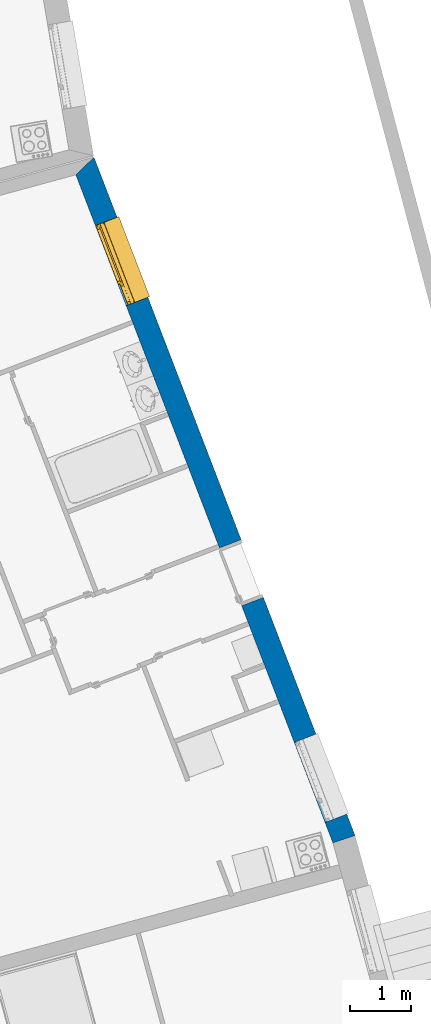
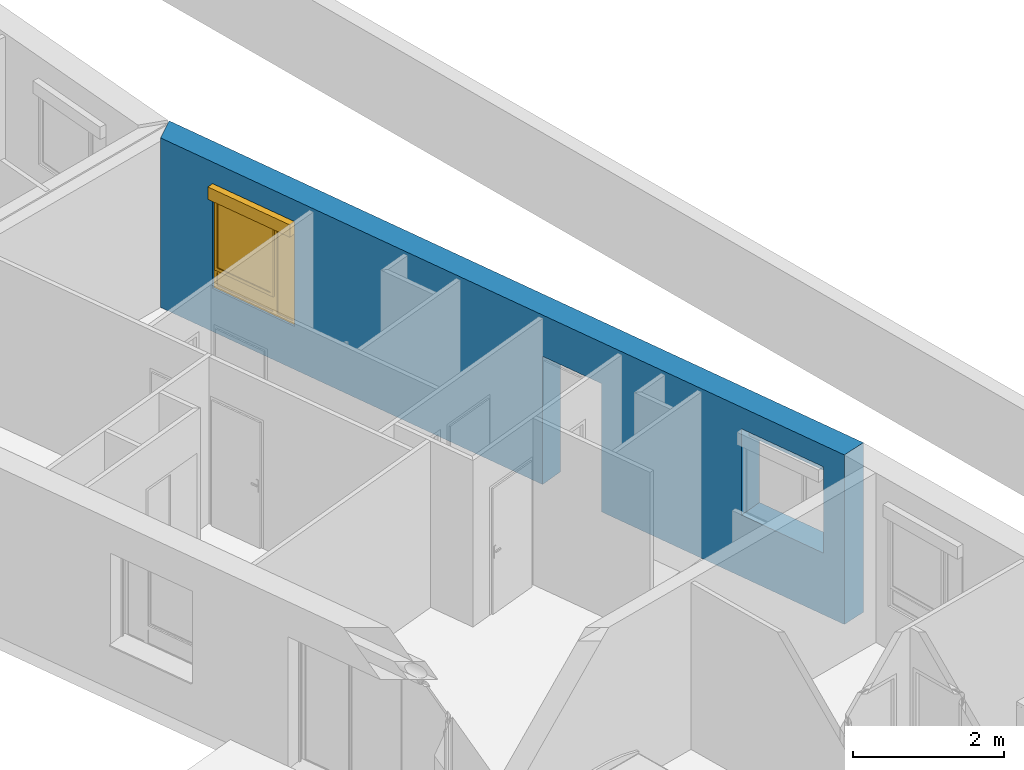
# One storey, part 77 of 195: 1 wall, 1 window, 3 openings.
"""IFC2X3 building model written with IfcOpenShell, lengths in metres."""

from ifc_helpers import new_model, entity, si_unit, converted_unit, derived_unit, money_unit, direction, frame, origin_with_axes, origin_2d_with_axis, place, context, subcontext, project, spatial, polyline, rectangle, outline, extrude, open_shell, faceted_brep, surface_model, source, transform, mapped, material, layer, layer_set, layer_usage, type_object, element, fill, save


model = new_model("IFC2X3")

# Units and contexts
model_context = context("Model", 3, precision=1e-05, world=origin_with_axes(), true_north=direction((0.0, 1.0)))
body_context = subcontext(model_context, "Body", "Model", "MODEL_VIEW")
ifc_project = project(units=[si_unit("LENGTHUNIT", "METRE"), si_unit("AREAUNIT", "SQUARE_METRE"), si_unit("VOLUMEUNIT", "CUBIC_METRE"), converted_unit("PLANEANGLEUNIT", "DEGREE", entity("IfcPlaneAngleMeasure", 0.0174532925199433), si_unit("PLANEANGLEUNIT", "RADIAN"), dimensions=[0, 0, 0, 0, 0, 0, 0]), money_unit("CHF"), converted_unit("TIMEUNIT", "Year", entity("IfcTimeMeasure", 31557600.0), si_unit("TIMEUNIT", "SECOND"), dimensions=[0, 0, 1, 0, 0, 0, 0]), si_unit("MASSUNIT", "GRAM", prefix="KILO"), si_unit("THERMODYNAMICTEMPERATUREUNIT", "DEGREE_CELSIUS"), si_unit("LUMINOUSINTENSITYUNIT", "LUMEN"), si_unit("ENERGYUNIT", "JOULE", prefix="MEGA"), derived_unit("THERMALCONDUCTANCEUNIT", [(si_unit("POWERUNIT", "WATT"), 1), (si_unit("LENGTHUNIT", "METRE"), -1), (si_unit("THERMODYNAMICTEMPERATUREUNIT", "KELVIN"), -1)]), derived_unit("SPECIFICHEATCAPACITYUNIT", [(si_unit("ENERGYUNIT", "JOULE"), 1), (si_unit("MASSUNIT", "GRAM", prefix="KILO"), -1), (si_unit("THERMODYNAMICTEMPERATUREUNIT", "KELVIN"), -1)]), derived_unit("MASSDENSITYUNIT", [(si_unit("MASSUNIT", "GRAM", prefix="KILO"), 1), (si_unit("VOLUMEUNIT", "CUBIC_METRE"), -1)])], contexts=[model_context])

# Site, building, storey
site_placement = place(None, origin_with_axes())
site = spatial("IfcSite", under=ifc_project, at=site_placement, Name="Site", CompositionType="ELEMENT")
building_placement = place(site_placement, origin_with_axes())
building = spatial("IfcBuilding", under=site, at=building_placement, Name="Bâtiment", CompositionType="ELEMENT")
storey_placement = place(building_placement, origin_with_axes())
storey = spatial("IfcBuildingStorey", under=building, at=storey_placement, Name="rdc", CompositionType="ELEMENT", Elevation=0.0)

# Wall, openings, window
ifc_material_1 = material(Name="Parpaing 312445824")
ifc_layer_1 = layer(ifc_material_1, 0.22, ventilated="UNKNOWN")
ifc_material_2 = material(Name="Isolant styromousse 301821074")
ifc_layer_2 = layer(ifc_material_2, 0.16, ventilated="UNKNOWN")
ifc_layer_set = layer_set([ifc_layer_1, ifc_layer_2], Name="isol int 22+16 0836643197")
ifc_layer_usage = layer_usage(ifc_layer_set, "AXIS2", "NEGATIVE", 0.0)
wall_type = type_object("IfcWallType", Name="isol int 22+16 0836643197 380", PredefinedType="NOTDEFINED")
wall_placement = place(storey_placement, frame((9589.41527848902, -1033.618668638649, 57.7), z_axis=(0.0, 0.0, 1.0), x_axis=(0.3591526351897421, -0.9332788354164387, 0.0)))
wall = element("IfcWallStandardCase", 1, at=wall_placement, inside=storey, type_object=wall_type, material=ifc_layer_usage, Name="Mur-113", context=body_context, shape_type="SweptSolid", body=[
    extrude(outline(polyline([(0.162329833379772, -0.3800000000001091), (11.8445257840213, -0.3800000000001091), (11.8638283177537, 0.0), (0.0, 0.0), (0.162329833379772, -0.3800000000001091)])), origin_with_axes(), (0.0, 0.0, 1.0), 2.75),
])
opening_1_placement = place(wall_placement, frame((1.751472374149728, 0.0, 0.7000000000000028), z_axis=(0.0, 0.0, 1.0), x_axis=(1.0, 0.0, 0.0)))
opening_1 = element("IfcOpeningElement", 2, at=opening_1_placement, cuts=wall, Name="Fen-045", context=body_context, shape_type="Brep", body=[
    faceted_brep([(-0.7000000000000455, -0.220000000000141, 1.5), (0.6999999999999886, -0.2200000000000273, 1.5), (0.6999999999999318, 3.977631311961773, 1.5), (-0.7000000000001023, 3.977631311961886, 1.5), (-0.7000000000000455, -0.220000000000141, 1.700000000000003), (0.6999999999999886, -0.2200000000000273, 1.700000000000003), (0.6999999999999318, -0.3000000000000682, 1.5), (0.6999999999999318, -0.3000000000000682, 0.0), (0.6999999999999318, 3.977631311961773, 0.0), (-0.7000000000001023, 3.977631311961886, 0.0), (-0.7000000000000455, -0.3000000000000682, 1.5), (-0.7000000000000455, -0.3000000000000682, 0.0), (-0.7000000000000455, -0.4800000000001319, 1.5), (-0.7000000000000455, -0.4800000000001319, 1.700000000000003), (0.6999999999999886, -0.4800000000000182, 1.700000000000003), (0.6999999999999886, -0.4800000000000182, 1.5), (0.6999999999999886, -4.357631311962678, 1.5), (0.6999999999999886, -4.357631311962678, 0.0), (-0.6999999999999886, -4.357631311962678, 0.0), (-0.6999999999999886, -4.357631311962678, 1.5)], [[[0, 1, 2, 3]], [[1, 0, 4, 5]], [[1, 6, 7, 8, 2]], [[2, 8, 9, 3]], [[10, 0, 3, 9, 11]], [[0, 10, 12, 13, 4]], [[14, 5, 4, 13]], [[6, 1, 5, 14, 15]], [[6, 15, 16, 17, 7]], [[7, 11, 9, 8]], [[12, 10, 11, 18, 19]], [[12, 15, 14, 13]], [[15, 12, 19, 16]], [[19, 18, 17, 16]], [[11, 7, 17, 18]]]),
])
opening_2_placement = place(wall_placement, frame((10.78837826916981, 0.0, 1.0), z_axis=(0.0, 0.0, 1.0), x_axis=(1.0, 0.0, 0.0)))
element("IfcOpeningElement", 3, at=opening_2_placement, cuts=wall, Name="Fen-045", context=body_context, shape_type="Brep", body=[
    faceted_brep([(-0.7000000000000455, -0.220000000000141, 1.200000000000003), (0.6999999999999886, -0.2200000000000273, 1.200000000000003), (0.6999999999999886, 3.977631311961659, 1.200000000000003), (-0.6999999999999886, 3.977631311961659, 1.200000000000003), (-0.7000000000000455, -0.220000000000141, 1.399999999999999), (0.6999999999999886, -0.2200000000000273, 1.399999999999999), (0.6999999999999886, -0.3000000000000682, 1.200000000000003), (0.6999999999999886, -0.3000000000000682, 0.0), (0.6999999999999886, 3.977631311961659, 0.0), (-0.6999999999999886, 3.977631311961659, 0.0), (-0.7000000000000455, -0.3000000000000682, 1.200000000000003), (-0.7000000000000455, -0.3000000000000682, 0.0), (-0.7000000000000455, -0.4800000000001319, 1.200000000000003), (-0.7000000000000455, -0.4800000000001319, 1.399999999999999), (0.6999999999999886, -0.4800000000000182, 1.399999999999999), (0.6999999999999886, -0.4800000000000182, 1.200000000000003), (0.7000000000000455, -4.357631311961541, 1.200000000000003), (0.7000000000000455, -4.357631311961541, 0.0), (-0.7000000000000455, -4.357631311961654, 0.0), (-0.7000000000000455, -4.357631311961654, 1.200000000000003)], [[[0, 1, 2, 3]], [[1, 0, 4, 5]], [[1, 6, 7, 8, 2]], [[2, 8, 9, 3]], [[10, 0, 3, 9, 11]], [[0, 10, 12, 13, 4]], [[14, 5, 4, 13]], [[6, 1, 5, 14, 15]], [[6, 15, 16, 17, 7]], [[7, 11, 9, 8]], [[12, 10, 11, 18, 19]], [[12, 15, 14, 13]], [[15, 12, 19, 16]], [[19, 18, 17, 16]], [[11, 7, 17, 18]]]),
])
opening_3_placement = place(wall_placement, frame((7.19412400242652, 0.0, 0.0), z_axis=(0.0, 0.0, 1.0), x_axis=(1.0, 0.0, 0.0)))
element("IfcOpeningElement", 4, at=opening_3_placement, cuts=wall, Name="Por-290", context=body_context, shape_type="SweptSolid", body=[
    extrude(rectangle(XDim=1.01000001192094, YDim=2.079999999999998, at=origin_2d_with_axis()), frame((-5.960487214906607e-09, 0.3799999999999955, 1.039999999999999), z_axis=(0.0, -1.0, 0.0), x_axis=(-1.0, 0.0, 0.0)), (0.0, 0.0, 1.0), 0.76),
])
window_style = type_object("IfcWindowStyle", Name="Fenêtre variable 27", ConstructionType="NOTDEFINED", OperationType="TRIPLE_PANEL_LEFT", ParameterTakesPrecedence=False, Sizeable=False)
shared_shape = source(origin_with_axes(), body_context, "Body", "SurfaceModel", [
    surface_model("IfcShellBasedSurfaceModel", [(0.7, -0.05100000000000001, 0.05), (-0.7, -0.05100000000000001, 0.05000000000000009), (-0.7, -0.05100000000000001, 0.04000000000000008), (0.7, -0.05100000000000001, 0.04), (-0.7, -0.3799999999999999, 0.02900000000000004), (0.7, -0.3799999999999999, 0.02899999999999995), (-0.7, -0.3799999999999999, 0.00900000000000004), (0.7, -0.3799999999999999, 0.008999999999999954), (-0.7, -0.3699999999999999, 0.01900000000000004), (0.7, -0.3699999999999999, 0.01899999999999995)], [open_shell([[[0, 1, 2, 3]], [[3, 2, 4, 5]], [[5, 4, 6, 7]], [[7, 6, 8, 9]]])]),
    faceted_brep([(0.7, -0.13, 1.7), (0.7, 0.13, 1.7), (0.697, 0.13, 1.7), (0.697, -0.13, 1.7), (0.7, -0.13, 1.5), (0.7, 0.13, 1.5), (0.697, 0.13, 1.5), (0.697, -0.13, 1.5)], [[[0, 1, 2, 3]], [[0, 4, 5, 1]], [[1, 5, 6, 2]], [[3, 2, 6, 7]], [[4, 0, 3, 7]], [[5, 4, 7, 6]]]),
    faceted_brep([(-0.6970000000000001, -0.1299999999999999, 1.7), (-0.6970000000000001, 0.1300000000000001, 1.7), (-0.7000000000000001, 0.1300000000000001, 1.7), (-0.7000000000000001, -0.1299999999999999, 1.7), (-0.6970000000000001, -0.1299999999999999, 1.5), (-0.6970000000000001, 0.1300000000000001, 1.5), (-0.7000000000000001, 0.1300000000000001, 1.5), (-0.7000000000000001, -0.1299999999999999, 1.5)], [[[0, 1, 2, 3]], [[0, 4, 5, 1]], [[1, 5, 6, 2]], [[3, 2, 6, 7]], [[4, 0, 3, 7]], [[5, 4, 7, 6]]]),
    faceted_brep([(0.697, -0.13, 1.5), (0.697, -0.13, 1.7), (-0.697, -0.1299999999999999, 1.7), (-0.697, -0.1299999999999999, 1.5), (0.697, -0.127, 1.5), (0.697, -0.127, 1.697), (0.697, 0.127, 1.697), (0.697, 0.127, 1.503), (0.697, -0.108, 1.503), (0.697, -0.108, 1.5), (0.697, 0.13, 1.5), (0.697, 0.13, 1.7), (-0.697, 0.1300000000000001, 1.7), (-0.697, 0.1300000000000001, 1.5), (-0.697, -0.1079999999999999, 1.5), (-0.697, -0.1079999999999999, 1.503), (-0.697, 0.1270000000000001, 1.503), (-0.697, 0.1270000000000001, 1.697), (-0.697, -0.1269999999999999, 1.697), (-0.697, -0.1269999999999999, 1.5)], [[[0, 1, 2, 3]], [[0, 4, 5, 6, 7, 8, 9, 10, 11, 1]], [[1, 11, 12, 2]], [[3, 2, 12, 13, 14, 15, 16, 17, 18, 19]], [[4, 0, 3, 19]], [[5, 4, 19, 18]], [[6, 5, 18, 17]], [[7, 6, 17, 16]], [[8, 7, 16, 15]], [[9, 8, 15, 14]], [[10, 9, 14, 13]], [[11, 10, 13, 12]]]),
    faceted_brep([(0.694, -0.08075423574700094, 1.585760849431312), (0.694, -0.07705479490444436, 1.571954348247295), (0.694, -0.07101408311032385, 1.559), (0.694, -0.06281564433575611, 1.547291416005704), (0.694, -0.05270858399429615, 1.537184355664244), (0.694, -0.04099999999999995, 1.528985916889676), (0.694, -0.02804565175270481, 1.522945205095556), (0.694, -0.01423915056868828, 1.519245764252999), (0.694, 0.0, 1.518), (0.694, 0.01423915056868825, 1.519245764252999), (0.694, 0.02804565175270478, 1.522945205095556), (0.694, 0.04099999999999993, 1.528985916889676), (0.694, 0.05270858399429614, 1.537184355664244), (0.694, 0.06281564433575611, 1.547291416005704), (0.694, 0.07101408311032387, 1.559), (0.694, 0.07705479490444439, 1.571954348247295), (0.694, 0.08075423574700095, 1.585760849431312), (0.694, 0.0819999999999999, 1.6), (0.694, 0.08075423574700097, 1.614239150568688), (0.694, 0.0770547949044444, 1.628045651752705), (0.694, 0.07101408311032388, 1.641), (0.694, 0.06281564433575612, 1.652708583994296), (0.694, 0.05270858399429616, 1.662815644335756), (0.694, 0.04099999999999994, 1.671014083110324), (0.694, 0.02804565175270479, 1.677054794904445), (0.694, 0.01423915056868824, 1.680754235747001), (0.694, 0.0, 1.682), (0.694, -0.01423915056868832, 1.680754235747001), (0.694, -0.02804565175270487, 1.677054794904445), (0.694, -0.04100000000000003, 1.671014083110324), (0.694, -0.05270858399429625, 1.662815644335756), (0.694, -0.06281564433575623, 1.652708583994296), (0.694, -0.07101408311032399, 1.641), (0.694, -0.07705479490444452, 1.628045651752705), (0.694, -0.0807542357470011, 1.614239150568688), (0.694, -0.08200000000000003, 1.6), (-0.694, -0.08075423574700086, 1.585760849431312), (-0.694, -0.07705479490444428, 1.571954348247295), (-0.694, -0.07101408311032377, 1.559), (-0.694, -0.06281564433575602, 1.547291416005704), (-0.694, -0.05270858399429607, 1.537184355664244), (-0.694, -0.04099999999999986, 1.528985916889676), (-0.694, -0.02804565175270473, 1.522945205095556), (-0.694, -0.0142391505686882, 1.519245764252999), (-0.694, 0.0, 1.518), (-0.694, 0.01423915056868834, 1.519245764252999), (-0.694, 0.02804565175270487, 1.522945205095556), (-0.694, 0.04100000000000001, 1.528985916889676), (-0.694, 0.05270858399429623, 1.537184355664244), (-0.694, 0.06281564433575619, 1.547291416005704), (-0.694, 0.07101408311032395, 1.559), (-0.694, 0.07705479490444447, 1.571954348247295), (-0.694, 0.08075423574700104, 1.585760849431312), (-0.694, 0.08199999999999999, 1.6), (-0.694, 0.08075423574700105, 1.614239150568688), (-0.694, 0.07705479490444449, 1.628045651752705), (-0.694, 0.07101408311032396, 1.641), (-0.694, 0.0628156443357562, 1.652708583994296), (-0.694, 0.05270858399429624, 1.662815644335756), (-0.694, 0.04100000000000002, 1.671014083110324), (-0.694, 0.02804565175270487, 1.677054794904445), (-0.694, 0.01423915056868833, 1.680754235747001), (-0.694, 0.0, 1.682), (-0.694, -0.01423915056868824, 1.680754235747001), (-0.694, -0.02804565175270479, 1.677054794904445), (-0.694, -0.04099999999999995, 1.671014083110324), (-0.694, -0.05270858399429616, 1.662815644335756), (-0.694, -0.06281564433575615, 1.652708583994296), (-0.694, -0.07101408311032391, 1.641), (-0.694, -0.07705479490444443, 1.628045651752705), (-0.694, -0.08075423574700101, 1.614239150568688), (-0.694, -0.08199999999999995, 1.6)], [[[0, 1, 2, 3, 4, 5, 6, 7, 8, 9, 10, 11, 12, 13, 14, 15, 16, 17, 18, 19, 20, 21, 22, 23, 24, 25, 26, 27, 28, 29, 30, 31, 32, 33, 34, 35]], [[1, 0, 36, 37]], [[2, 1, 37, 38]], [[3, 2, 38, 39]], [[4, 3, 39, 40]], [[5, 4, 40, 41]], [[6, 5, 41, 42]], [[7, 6, 42, 43]], [[8, 7, 43, 44]], [[9, 8, 44, 45]], [[10, 9, 45, 46]], [[11, 10, 46, 47]], [[12, 11, 47, 48]], [[13, 12, 48, 49]], [[14, 13, 49, 50]], [[15, 14, 50, 51]], [[16, 15, 51, 52]], [[17, 16, 52, 53]], [[18, 17, 53, 54]], [[19, 18, 54, 55]], [[20, 19, 55, 56]], [[21, 20, 56, 57]], [[22, 21, 57, 58]], [[23, 22, 58, 59]], [[24, 23, 59, 60]], [[25, 24, 60, 61]], [[26, 25, 61, 62]], [[27, 26, 62, 63]], [[28, 27, 63, 64]], [[29, 28, 64, 65]], [[30, 29, 65, 66]], [[31, 30, 66, 67]], [[32, 31, 67, 68]], [[33, 32, 68, 69]], [[34, 33, 69, 70]], [[35, 34, 70, 71]], [[0, 35, 71, 36]], [[36, 71, 70, 69, 68, 67, 66, 65, 64, 63, 62, 61, 60, 59, 58, 57, 56, 55, 54, 53, 52, 51, 50, 49, 48, 47, 46, 45, 44, 43, 42, 41, 40, 39, 38, 37]]]),
    faceted_brep([(-0.7, -0.105, 0.03), (-0.7, -0.13, 0.03), (-0.7, -0.1299999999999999, 1.5), (-0.7, -0.1049999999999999, 1.5), (-0.6749999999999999, -0.105, 0.03), (-0.6749999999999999, -0.108, 0.03), (-0.697, -0.108, 0.03), (-0.697, -0.127, 0.03), (-0.6749999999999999, -0.127, 0.03), (-0.6749999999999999, -0.13, 0.03), (-0.6749999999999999, -0.1299999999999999, 1.5), (-0.6749999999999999, -0.1269999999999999, 1.5), (-0.697, -0.1269999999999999, 1.5), (-0.697, -0.1079999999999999, 1.5), (-0.6749999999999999, -0.1079999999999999, 1.5), (-0.6749999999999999, -0.1049999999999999, 1.5)], [[[0, 1, 2, 3]], [[0, 4, 5, 6, 7, 8, 9, 1]], [[1, 9, 10, 2]], [[3, 2, 10, 11, 12, 13, 14, 15]], [[4, 0, 3, 15]], [[5, 4, 15, 14]], [[6, 5, 14, 13]], [[7, 6, 13, 12]], [[8, 7, 12, 11]], [[9, 8, 11, 10]]]),
    faceted_brep([(0.7, -0.105, 0.03), (0.7, -0.1049999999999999, 1.5), (0.7, -0.1299999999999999, 1.5), (0.7, -0.13, 0.03), (0.6749999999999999, -0.105, 0.03), (0.6749999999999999, -0.1049999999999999, 1.5), (0.6749999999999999, -0.1079999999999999, 1.5), (0.697, -0.1079999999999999, 1.5), (0.697, -0.1269999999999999, 1.5), (0.6749999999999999, -0.1269999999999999, 1.5), (0.6749999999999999, -0.1299999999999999, 1.5), (0.6749999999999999, -0.13, 0.03), (0.6749999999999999, -0.127, 0.03), (0.697, -0.127, 0.03), (0.697, -0.108, 0.03), (0.6749999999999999, -0.108, 0.03)], [[[0, 1, 2, 3]], [[4, 5, 1, 0]], [[1, 5, 6, 7, 8, 9, 10, 2]], [[3, 2, 10, 11]], [[0, 3, 11, 12, 13, 14, 15, 4]], [[15, 6, 5, 4]], [[14, 7, 6, 15]], [[13, 8, 7, 14]], [[12, 9, 8, 13]], [[11, 10, 9, 12]]]),
    surface_model("IfcShellBasedSurfaceModel", [(0.697, -0.115, 1.6), (-0.697, -0.1149999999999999, 1.6), (-0.697, -0.12, 1.6), (0.697, -0.12, 1.6), (0.697, -0.115, 1.6), (0.697, -0.12, 1.6), (-0.697, -0.1199999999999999, 1.6), (-0.697, -0.1149999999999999, 1.6)], [open_shell([[[0, 1, 2, 3]], [[4, 5, 6, 7]]])]),
    faceted_brep([(0.697, -0.115, 1.6), (0.697, -0.1166666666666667, 1.583333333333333), (-0.697, -0.1166666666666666, 1.583333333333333), (-0.697, -0.1149999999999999, 1.6), (0.697, -0.12, 1.6), (0.697, -0.1216666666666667, 1.583333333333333), (0.697, -0.1216666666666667, 1.566666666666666), (0.697, -0.12, 1.55), (0.697, -0.115, 1.55), (0.697, -0.1166666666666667, 1.566666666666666), (-0.697, -0.1166666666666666, 1.566666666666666), (-0.697, -0.1149999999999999, 1.55), (-0.697, -0.1199999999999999, 1.55), (-0.697, -0.1216666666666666, 1.566666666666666), (-0.697, -0.1216666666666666, 1.583333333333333), (-0.697, -0.1199999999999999, 1.6)], [[[0, 1, 2, 3]], [[0, 4, 5, 6, 7, 8, 9, 1]], [[1, 9, 10, 2]], [[3, 2, 10, 11, 12, 13, 14, 15]], [[4, 0, 3, 15]], [[5, 4, 15, 14]], [[6, 5, 14, 13]], [[7, 6, 13, 12]], [[8, 7, 12, 11]], [[9, 8, 11, 10]]]),
    faceted_brep([(0.697, -0.115, 1.55), (0.697, -0.1166666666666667, 1.533333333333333), (-0.697, -0.1166666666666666, 1.533333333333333), (-0.697, -0.1149999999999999, 1.55), (0.697, -0.12, 1.55), (0.697, -0.1216666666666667, 1.533333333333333), (0.697, -0.1216666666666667, 1.516666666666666), (0.697, -0.12, 1.5), (0.697, -0.115, 1.5), (0.697, -0.1166666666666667, 1.516666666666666), (-0.697, -0.1166666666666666, 1.516666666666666), (-0.697, -0.1149999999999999, 1.5), (-0.697, -0.1199999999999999, 1.5), (-0.697, -0.1216666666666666, 1.516666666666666), (-0.697, -0.1216666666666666, 1.533333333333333), (-0.697, -0.1199999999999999, 1.55)], [[[0, 1, 2, 3]], [[0, 4, 5, 6, 7, 8, 9, 1]], [[1, 9, 10, 2]], [[3, 2, 10, 11, 12, 13, 14, 15]], [[4, 0, 3, 15]], [[5, 4, 15, 14]], [[6, 5, 14, 13]], [[7, 6, 13, 12]], [[8, 7, 12, 11]], [[9, 8, 11, 10]]]),
    faceted_brep([(0.6749999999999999, 0.0, 1.45), (0.6749999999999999, -0.02500000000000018, 1.45), (0.6499999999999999, -0.02500000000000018, 1.45), (0.6499999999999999, -0.05000000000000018, 1.45), (0.7, -0.05000000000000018, 1.45), (0.7, 0.0, 1.45), (0.6749999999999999, 0.0, 0.3099999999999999), (0.6749999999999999, -0.02500000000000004, 0.3099999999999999), (0.6499999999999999, -0.02500000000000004, 0.335), (0.6499999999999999, -0.02500000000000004, 0.3099999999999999), (0.6499999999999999, -0.05000000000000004, 0.335), (0.6499999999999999, -0.05000000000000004, 0.265), (0.6499999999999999, -0.05000000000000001, 0.05000000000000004), (0.7, -0.05000000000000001, 0.05000000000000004), (0.7, 0.0, 0.05000000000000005), (0.6499999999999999, 0.0, 0.05000000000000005), (0.6499999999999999, 0.0, 0.265), (0.6499999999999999, 0.0, 0.3099999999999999)], [[[0, 1, 2, 3, 4, 5]], [[1, 0, 6, 7]], [[8, 2, 1, 7, 9]], [[2, 8, 10, 3]], [[10, 11, 12, 13, 4, 3]], [[5, 4, 13, 14]], [[6, 0, 5, 14, 15, 16, 17]], [[6, 17, 9, 7]], [[9, 17, 16, 11, 10, 8]], [[15, 12, 11, 16]], [[14, 13, 12, 15]]]),
    faceted_brep([(-0.3068894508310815, -0.02500000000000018, 1.45), (-0.3318894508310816, -0.02500000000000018, 1.45), (-0.3318894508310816, 0.0, 1.45), (-0.3768894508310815, 0.0, 1.45), (-0.3768894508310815, -0.05000000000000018, 1.45), (-0.3068894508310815, -0.05000000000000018, 1.45), (-0.3068894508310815, -0.02500000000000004, 0.335), (-0.3068894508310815, -0.02500000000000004, 0.3099999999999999), (-0.3318894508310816, -0.02500000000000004, 0.3099999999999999), (-0.3318894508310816, 0.0, 0.3099999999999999), (-0.3068894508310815, 0.0, 0.3099999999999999), (-0.3068894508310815, 0.0, 0.265), (-0.3068894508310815, 0.0, 0.05000000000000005), (-0.3768894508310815, 0.0, 0.05000000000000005), (-0.3768894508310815, -0.05000000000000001, 0.05000000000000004), (-0.3068894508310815, -0.05000000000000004, 0.265), (-0.3068894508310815, -0.05000000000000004, 0.335), (-0.3068894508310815, -0.05000000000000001, 0.05000000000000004)], [[[0, 1, 2, 3, 4, 5]], [[1, 0, 6, 7, 8]], [[9, 2, 1, 8]], [[9, 10, 11, 12, 13, 3, 2]], [[13, 14, 4, 3]], [[15, 16, 5, 4, 14, 17]], [[6, 0, 5, 16]], [[7, 6, 16, 15, 11, 10]], [[10, 9, 8, 7]], [[11, 15, 17, 12]], [[12, 17, 14, 13]]]),
    faceted_brep([(0.6499999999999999, -0.02500000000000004, 0.335), (-0.3068894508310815, -0.02500000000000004, 0.335), (-0.3068894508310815, -0.05000000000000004, 0.335), (0.6499999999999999, -0.05000000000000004, 0.335), (-0.3068894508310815, -0.02500000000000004, 0.3099999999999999), (0.6499999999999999, -0.02500000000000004, 0.3099999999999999), (-0.3068894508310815, 0.0, 0.3099999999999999), (-0.3068894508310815, 0.0, 0.265), (-0.3068894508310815, -0.05000000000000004, 0.265), (0.6499999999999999, -0.05000000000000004, 0.265), (0.6499999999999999, 0.0, 0.265), (0.6499999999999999, 0.0, 0.3099999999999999)], [[[0, 1, 2, 3]], [[4, 1, 0, 5]], [[4, 6, 7, 8, 2, 1]], [[2, 8, 9, 3]], [[5, 0, 3, 9, 10, 11]], [[11, 6, 4, 5]], [[6, 11, 10, 7]], [[10, 9, 8, 7]]]),
    faceted_brep([(0.6749999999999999, 0.0, 1.45), (0.6749999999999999, 0.0, 1.475), (-0.3318894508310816, 0.0, 1.475), (-0.3318894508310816, 0.0, 1.45), (-0.3768894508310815, 0.0, 1.45), (-0.6499999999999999, 0.0, 1.45), (-0.7, 0.0, 1.45), (-0.7, 0.0, 1.5), (0.7, 0.0, 1.5), (0.7, 0.0, 1.45), (0.6749999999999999, -0.02500000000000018, 1.45), (0.6749999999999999, -0.02500000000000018, 1.475), (-0.3318894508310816, -0.02500000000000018, 1.475), (-0.3318894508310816, -0.02500000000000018, 1.45), (-0.3068894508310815, -0.02500000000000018, 1.45), (-0.3068894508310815, -0.05000000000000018, 1.45), (-0.3768894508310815, -0.05000000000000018, 1.45), (-0.6499999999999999, -0.05000000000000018, 1.45), (-0.7, -0.05000000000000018, 1.45), (-0.7, -0.05000000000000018, 1.5), (0.7, -0.05000000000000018, 1.5), (0.7, -0.05000000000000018, 1.45), (0.6499999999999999, -0.05000000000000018, 1.45), (0.6499999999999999, -0.02500000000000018, 1.45)], [[[0, 1, 2, 3, 4, 5, 6, 7, 8, 9]], [[1, 0, 10, 11]], [[2, 1, 11, 12]], [[3, 2, 12, 13]], [[13, 14, 15, 16, 4, 3]], [[4, 16, 17, 5]], [[5, 17, 18, 6]], [[6, 18, 19, 7]], [[7, 19, 20, 8]], [[8, 20, 21, 9]], [[10, 0, 9, 21, 22, 23]], [[14, 13, 12, 11, 10, 23]], [[14, 23, 22, 15]], [[16, 15, 22, 21, 20, 19, 18, 17]]]),
    faceted_brep([(-0.6499999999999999, -0.05000000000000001, 0.05), (-0.7, -0.05000000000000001, 0.05), (-0.7, 0.0, 0.05000000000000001), (-0.6499999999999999, 0.0, 0.05000000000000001), (-0.6499999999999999, -0.05000000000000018, 1.45), (-0.7, -0.05000000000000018, 1.45), (-0.7, 0.0, 1.45), (-0.6499999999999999, 0.0, 1.45)], [[[0, 1, 2, 3]], [[0, 4, 5, 1]], [[1, 5, 6, 2]], [[3, 2, 6, 7]], [[4, 0, 3, 7]], [[5, 4, 7, 6]]]),
    faceted_brep([(0.6499999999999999, -0.05000000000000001, 0.05), (0.7, -0.05000000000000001, 0.05), (0.7, 0.0, 0.05000000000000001), (0.6499999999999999, 0.0, 0.05000000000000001), (-0.3068894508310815, -0.05000000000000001, 0.05), (-0.3768894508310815, -0.05000000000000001, 0.05), (-0.6499999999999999, -0.05000000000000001, 0.05), (-0.7, -0.05000000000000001, 0.05), (-0.7, -0.05, 0.0), (0.7, -0.05, 0.0), (0.7, 0.0, 0.0), (-0.7, 0.0, 0.0), (-0.7, 0.0, 0.05000000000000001), (-0.6499999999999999, 0.0, 0.05000000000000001), (-0.3768894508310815, 0.0, 0.05000000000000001), (-0.3068894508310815, 0.0, 0.05000000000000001)], [[[0, 1, 2, 3]], [[0, 4, 5, 6, 7, 8, 9, 1]], [[1, 9, 10, 2]], [[3, 2, 10, 11, 12, 13, 14, 15]], [[4, 0, 3, 15]], [[5, 4, 15, 14]], [[6, 5, 14, 13]], [[7, 6, 13, 12]], [[8, 7, 12, 11]], [[9, 8, 11, 10]]]),
    faceted_brep([(0.625, -0.02500000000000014, 1.425), (0.6749999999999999, -0.02500000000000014, 1.425), (0.6749999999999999, 0.02499999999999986, 1.425), (0.625, 0.02499999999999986, 1.425), (0.625, -0.02500000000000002, 0.3599999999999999), (0.6749999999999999, -0.02500000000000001, 0.3599999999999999), (0.6749999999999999, 0.02499999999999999, 0.3599999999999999), (0.625, 0.02499999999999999, 0.3599999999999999)], [[[0, 1, 2, 3]], [[0, 4, 5, 1]], [[1, 5, 6, 2]], [[3, 2, 6, 7]], [[4, 0, 3, 7]], [[5, 4, 7, 6]]]),
    faceted_brep([(-0.2818894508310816, -0.02500000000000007, 0.3599999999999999), (-0.3318894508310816, -0.02500000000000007, 0.3599999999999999), (-0.3318894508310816, 0.02499999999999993, 0.3599999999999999), (-0.2818894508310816, 0.02499999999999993, 0.3599999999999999), (-0.2818894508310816, -0.0250000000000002, 1.425), (-0.3318894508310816, -0.0250000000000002, 1.425), (-0.3318894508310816, 0.0249999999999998, 1.425), (-0.2818894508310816, 0.0249999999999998, 1.425)], [[[0, 1, 2, 3]], [[0, 4, 5, 1]], [[1, 5, 6, 2]], [[3, 2, 6, 7]], [[4, 0, 3, 7]], [[5, 4, 7, 6]]]),
    faceted_brep([(-0.3318894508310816, -0.02500000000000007, 0.3099999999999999), (-0.3318894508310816, -0.02500000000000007, 0.3599999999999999), (-0.3318894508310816, 0.02499999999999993, 0.3599999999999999), (-0.3318894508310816, 0.02499999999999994, 0.3099999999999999), (0.6749999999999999, -0.025, 0.3099999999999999), (0.6749999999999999, -0.02500000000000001, 0.3599999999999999), (0.625, -0.02500000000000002, 0.3599999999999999), (-0.2818894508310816, -0.02500000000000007, 0.3599999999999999), (-0.2818894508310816, 0.02499999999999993, 0.3599999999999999), (0.625, 0.02499999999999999, 0.3599999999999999), (0.6749999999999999, 0.02499999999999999, 0.3599999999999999), (0.6749999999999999, 0.02499999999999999, 0.3099999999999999)], [[[0, 1, 2, 3]], [[0, 4, 5, 6, 7, 1]], [[1, 7, 8, 2]], [[3, 2, 8, 9, 10, 11]], [[4, 0, 3, 11]], [[5, 4, 11, 10]], [[6, 5, 10, 9]], [[7, 6, 9, 8]]]),
    faceted_brep([(0.6749999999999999, -0.02500000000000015, 1.475), (0.6749999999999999, -0.02500000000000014, 1.425), (0.6749999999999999, 0.02499999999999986, 1.425), (0.6749999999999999, 0.02499999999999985, 1.475), (-0.3318894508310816, -0.02500000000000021, 1.475), (-0.3318894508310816, -0.0250000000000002, 1.425), (-0.2818894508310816, -0.0250000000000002, 1.425), (0.625, -0.02500000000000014, 1.425), (0.625, 0.02499999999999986, 1.425), (-0.2818894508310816, 0.0249999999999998, 1.425), (-0.3318894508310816, 0.0249999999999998, 1.425), (-0.3318894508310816, 0.02499999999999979, 1.475)], [[[0, 1, 2, 3]], [[0, 4, 5, 6, 7, 1]], [[1, 7, 8, 2]], [[3, 2, 8, 9, 10, 11]], [[4, 0, 3, 11]], [[5, 4, 11, 10]], [[6, 5, 10, 9]], [[7, 6, 9, 8]]]),
    surface_model("IfcShellBasedSurfaceModel", [(0.625, -0.01000000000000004, 0.3599999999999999), (0.625, -0.01000000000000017, 1.425), (-0.2818894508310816, -0.01000000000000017, 1.425), (-0.2818894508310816, -0.01000000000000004, 0.3599999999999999)], [open_shell([[[0, 1, 2, 3]]])]),
    surface_model("IfcShellBasedSurfaceModel", [(0.625, 0.009999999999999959, 0.3599999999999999), (-0.2818894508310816, 0.009999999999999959, 0.3599999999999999), (-0.2818894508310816, 0.00999999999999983, 1.425), (0.625, 0.00999999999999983, 1.425)], [open_shell([[[0, 1, 2, 3]]])]),
    surface_model("IfcShellBasedSurfaceModel", [(-0.3768894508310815, -0.035, 0.05), (-0.3768894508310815, -0.03500000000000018, 1.45), (-0.65, -0.03500000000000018, 1.45), (-0.65, -0.035, 0.05)], [open_shell([[[0, 1, 2, 3]]])]),
    surface_model("IfcShellBasedSurfaceModel", [(-0.3768894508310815, -0.015, 0.05), (-0.65, -0.015, 0.05), (-0.65, -0.01500000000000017, 1.45), (-0.3768894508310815, -0.01500000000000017, 1.45)], [open_shell([[[0, 1, 2, 3]]])]),
    surface_model("IfcShellBasedSurfaceModel", [(0.6499999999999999, -0.035, 0.05), (0.6499999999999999, -0.03500000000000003, 0.265), (-0.3068894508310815, -0.03500000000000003, 0.265), (-0.3068894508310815, -0.035, 0.05)], [open_shell([[[0, 1, 2, 3]]])]),
    surface_model("IfcShellBasedSurfaceModel", [(0.6499999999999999, -0.015, 0.05), (-0.3068894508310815, -0.015, 0.05), (-0.3068894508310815, -0.01500000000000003, 0.265), (0.6499999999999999, -0.01500000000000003, 0.265)], [open_shell([[[0, 1, 2, 3]]])]),
])
window_placement = place(opening_1_placement, frame((0.6999999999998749, 0.0, 0.0), z_axis=(0.0, 0.0, 1.0), x_axis=(-1.0, 0.0, 0.0)))
window = element("IfcWindow", 5, at=window_placement, inside=storey, type_object=window_style, Name="Fen-045", OverallHeight=1.5, OverallWidth=1.4, context=body_context, shape_type="MappedRepresentation", body=[
    mapped(shared_shape, transform((0.6999999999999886, 0.3500000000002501, 0.0))),
])
fill(opening_1, window)

save(model, "model.ifc")
